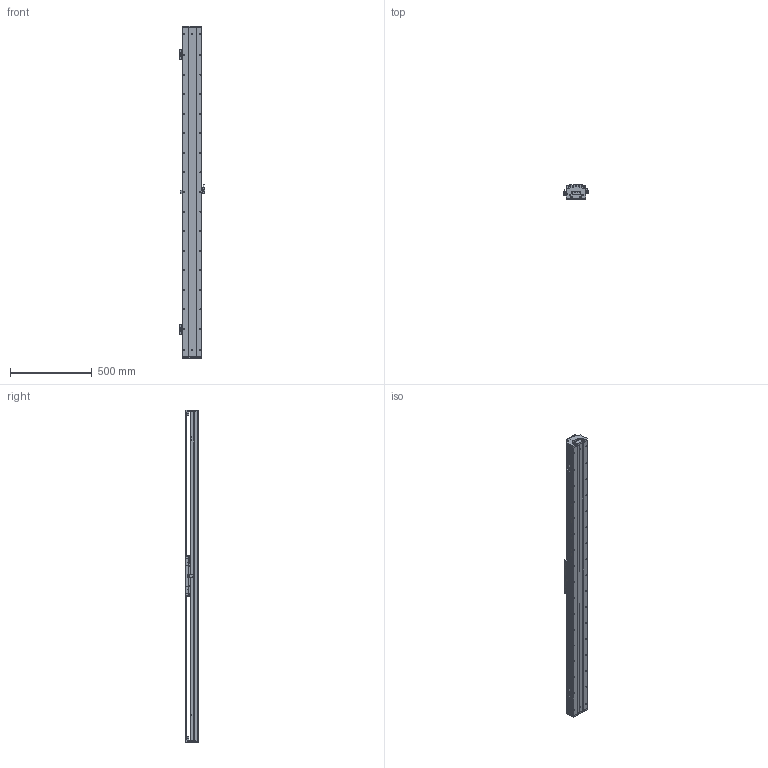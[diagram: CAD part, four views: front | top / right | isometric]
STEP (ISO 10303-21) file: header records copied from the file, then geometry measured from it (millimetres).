
FILE_DESCRIPTION (( 'STEP AP203' ), '1' );
FILE_NAME ('DKW120-B3-W060（T1680-L005-0.2）.STEP', '2021-09-07T05:45:54', ( '微软用户' ), ( '微软中国' ), 'SwSTEP 2.0', 'SolidWorks 2018', '' );
FILE_SCHEMA (( 'CONFIG_CONTROL_DESIGN' ));
Length unit declared in the file: millimetre
Products named in the file (20): DKW120-B15-T300-DZ-00 菁釱; EE_SX674A; DKW120 单轴模组-拉钢带组件; MSB15-DG-U; B3-W060_00; BKMA01-W060-TRL280; 06652-0001-001-00 DKW120傷啣; DKW120-B3-W060（T1680-L005-0.2）; RUS嫖掑喜; 06652-0001-004-00 DKW120嶺輸菜輸; Ru2; DKW-HXJ-JY-00 遣喳砎蝶; RUS嫖掑郪璃; 10940-0001-004-00 120詩湍裔啣; DKW119-RU-DTJ-00 RU2黍杅芛盓殤; 砎蝶猾沭; 10980-0001-003-00 嫖萇羲壽嘐隅釱; 12160-0000-003-00 DKW120詩湍嶺輸; DKW-SG-GYP-H-00 嫖萇覜茼え; 12160-0000-004-00  DKW120詩湍揤輸
Assembly tree (33 placements, depth 3):
  DKW120-B3-W060（T1680-L005-0.2）
    DKW120-B15-T300-DZ-00 菁釱
    MSB15-DG-U  x2
    DKW120 单轴模组-拉钢带组件
      06652-0001-001-00 DKW120傷啣  x2
      06652-0001-004-00 DKW120嶺輸菜輸  x4
      DKW-HXJ-JY-00 遣喳砎蝶  x4
      10940-0001-004-00 120詩湍裔啣
      砎蝶猾沭  x2
      12160-0000-003-00 DKW120詩湍嶺輸  x2
      12160-0000-004-00  DKW120詩湍揤輸  x2
    BKMA01-W060-TRL280
    RUS嫖掑郪璃
      RUS嫖掑喜
      Ru2
    DKW119-RU-DTJ-00 RU2黍杅芛盓殤
    10980-0001-003-00 嫖萇羲壽嘐隅釱  x2
    DKW-SG-GYP-H-00 嫖萇覜茼え
    EE_SX674A  x3
    B3-W060_00
Bounding box: 154.1 x 84 x 2036 mm (x, y, z)
Volume: 7215420.8 mm3; surface area: 2821748.8 mm2
Topology: 41 solids, 90 shells, 4336 faces, 11952 edges, 7701 vertices
Faces by surface type: plane 2291, cylinder 1450, cone 348, bspline 247
Entity records: 139046 total; most frequent: CARTESIAN_POINT 48209, ORIENTED_EDGE 18885, DIRECTION 17542, EDGE_CURVE 9483, VERTEX_POINT 6232, AXIS2_PLACEMENT_3D 5890, VECTOR 5762, LINE 5762
